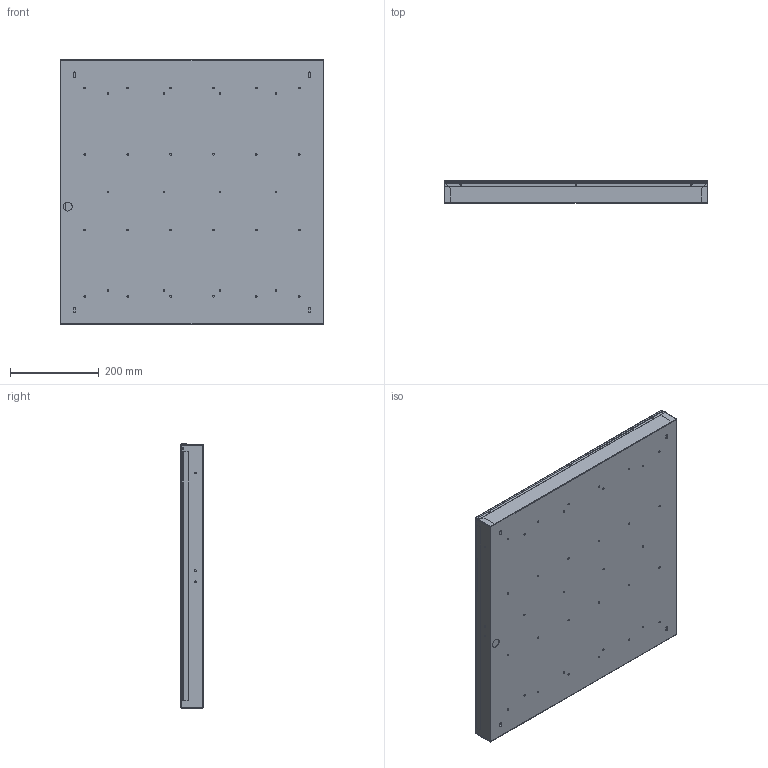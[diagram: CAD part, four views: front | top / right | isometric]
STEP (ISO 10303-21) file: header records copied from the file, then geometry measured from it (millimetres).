
FILE_DESCRIPTION(('STEP AP203'), '1');
FILE_NAME('ÄÏÎ 005 0606 - Îôèñ Ñòàíäàðò', '', ('UNSPECIFIED'), ('UNSPECIFIED'), 'ASCON STEP Converter 1.6', 'ASCON Math Kernel', '');
FILE_SCHEMA(('CONFIG_CONTROL_DESIGN'));
Length unit declared in the file: millimetre
Products named in the file (7): ДПО 005 0606; ДПО 005 0606 01; ДПО 005 0606 02; ДПО 005 0606 03
Assembly tree (10 placements, depth 3):
  ДПО 005 0606
    ДПО 005 0606 01
      ДПО 005 0606 01
      ДПО 005 0606 02  x3
    ДПО 005 0606 03
    (unnamed)  x3
    (unnamed)
Bounding box: 595 x 50 x 595.8 mm (x, y, z)
Volume: 1372515.3 mm3; surface area: 1802266 mm2
Topology: 9 solids, 9 shells, 325 faces, 775 edges, 481 vertices
Faces by surface type: plane 195, cylinder 92, bspline 26, cone 6, torus 6
Full cylindrical faces by diameter (mm): 2.2 x3, 2.5 x3, 3.5 x40, 4.2 x2, 4.4 x3, 20 x1
Entity records: 8406 total; most frequent: CARTESIAN_POINT 2141, DIRECTION 1164, ORIENTED_EDGE 1086, EDGE_CURVE 543, AXIS2_PLACEMENT_3D 408, EDGE_LOOP 398, VERTEX_POINT 357, LINE 348
